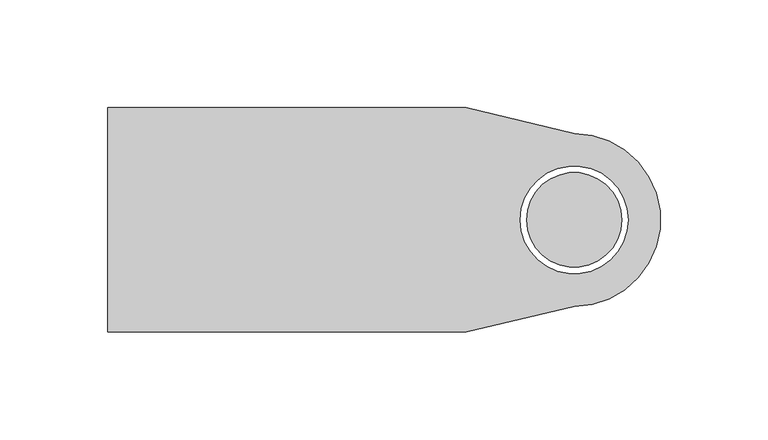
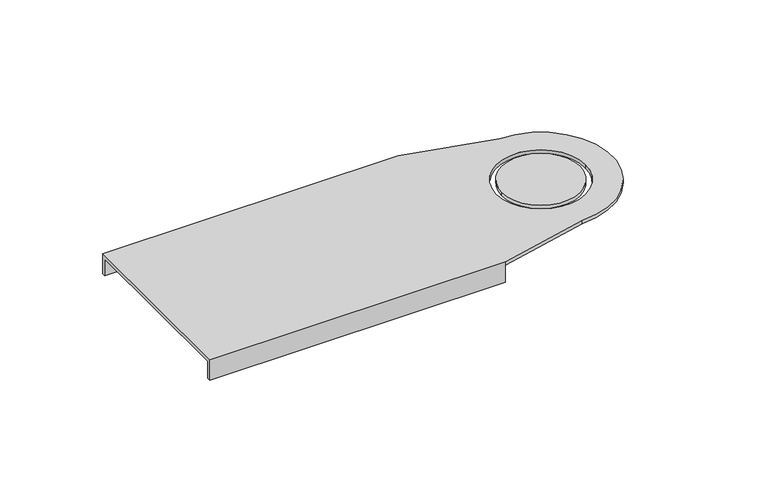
"""IFC4 building model written with IfcOpenShell, lengths in millimetres: cable carrier fitting geometry, BAKS_LDLS_BEND_Articulated connector for LLDS_LGSU : LGSUC_H100."""

from ifc_helpers import new_model, si_unit, frame, origin, place, context, project, spatial, polyline, circle_curve, source, transform, mapped, element, save
from ifc_brep_helpers import plane_surface, cylinder_surface, revolved_surface, advanced_brep


def cable_carrier_fitting_9a2a8d5e(model_context):
    return source(origin(), model_context, "Body", "AdvancedBrep", [
        advanced_brep(
        [(-216.0, 52.0, 2.0), (-216.0, -52.0, 2.0), (-50.0, -52.0, 2.0), (0.0, -40.0, 2.0), (0.0, 40.0, 2.0), (-50.0, 52.0, 2.0), (25.0, 0.0, 2.0), (-25.0, 0.0, 2.0), (-50.0, -52.0, 0.0), (-50.0, -50.0, 0.0), (-216.0, -50.0, 0.0), (-216.0, 50.0, 0.0), (-50.0, 50.0, 0.0), (-50.0, 52.0, 0.0), (0.0, 40.0, 0.0), (0.0, -40.0, 0.0), (-25.0, 0.0, 0.0), (25.0, 0.0, 0.0), (-50.0, 52.0, -10.0), (-216.0, 52.0, -10.0), (-216.0, -52.0, -10.0), (-50.0, -52.0, -10.0), (-216.0, 50.0, -10.0), (-216.0, -50.0, -10.0), (-50.0, -50.0, -10.0), (-50.0, 50.0, -10.0)],
        [
            (0, 1),
            (1, 2),
            (2, 3),
            (3, 4, circle_curve(frame((0.0, 0.0, 2.0), z_axis=(0.0, 0.0, 1.0), x_axis=(-1.0, 0.0, 0.0)), 40.0)),
            (4, 5),
            (5, 0),
            (6, 7, circle_curve(frame((0.0, 0.0, 2.0), z_axis=(0.0, 0.0, -1.0), x_axis=(-1.0, 0.0, 0.0)), 25.0)),
            (7, 6, circle_curve(frame((0.0, 0.0, 2.0), z_axis=(0.0, 0.0, -1.0), x_axis=(-1.0, 0.0, 0.0)), 25.0)),
            (8, 9),
            (9, 10),
            (10, 11),
            (11, 12),
            (12, 13),
            (13, 14),
            (14, 15, circle_curve(frame((0.0, 0.0, 0.0), z_axis=(0.0, 0.0, -1.0), x_axis=(-1.0, 0.0, 0.0)), 40.0)),
            (15, 8),
            (16, 17, circle_curve(frame((0.0, 0.0, 0.0), z_axis=(0.0, 0.0, 1.0), x_axis=(-1.0, 0.0, 0.0)), 25.0)),
            (17, 16, circle_curve(frame((0.0, 0.0, 0.0), z_axis=(0.0, 0.0, 1.0), x_axis=(-1.0, 0.0, 0.0)), 25.0)),
            (5, 13),
            (13, 18),
            (18, 19),
            (19, 0),
            (1, 20),
            (20, 21),
            (21, 8),
            (8, 2),
            (19, 22),
            (22, 11),
            (10, 23),
            (23, 20),
            (7, 16),
            (17, 6),
            (4, 14),
            (3, 15),
            (23, 24),
            (24, 21),
            (9, 24),
            (18, 25),
            (25, 22),
            (12, 25),
        ],
        [
            plane_surface(frame((-50.0, 52.0, 2.0), z_axis=(0.0, 0.0, 1.0), x_axis=(1.0, 0.0, 0.0))),
            plane_surface(frame((-50.0, 52.0, 0.0), z_axis=(0.0, 0.0, -1.0), x_axis=(-1.0, 0.0, 0.0))),
            plane_surface(frame((-216.0, 52.0, 2.0), z_axis=(0.0, 1.0, 0.0), x_axis=(0.0, 0.0, -1.0))),
            plane_surface(frame((-50.0, -52.0, 2.0), z_axis=(0.0, -1.0, 0.0), x_axis=(0.0, 0.0, -1.0))),
            plane_surface(frame((-216.0, -52.0, 2.0), z_axis=(-1.0, 0.0, 0.0), x_axis=(0.0, 0.0, -1.0))),
            revolved_surface(polyline([(-25.0, 0.0, 2.0), (-25.0, 0.0, 0.0)]), (0.0, 0.0, 0.0), (0.0, 0.0, 1.0)),
            plane_surface(frame((-50.0, 52.0, 2.0), z_axis=(0.23337295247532, 0.9723873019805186, 0.0), x_axis=(0.0, 0.0, -1.0))),
            cylinder_surface(frame((0.0, 0.0, 0.0), z_axis=(0.0, 0.0, 1.0), x_axis=(-1.0, 0.0, 0.0)), 40.0),
            plane_surface(frame((0.0, -40.0, 2.0), z_axis=(0.2333729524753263, -0.972387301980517, 0.0), x_axis=(0.0, 0.0, -1.0))),
            plane_surface(frame((-50.0, -50.0, -10.0), z_axis=(0.0, 0.0, -1.0), x_axis=(-1.0, 0.0, 0.0))),
            plane_surface(frame((-216.0, -50.0, 0.0), z_axis=(0.0, 1.0, 0.0), x_axis=(0.0, 0.0, -1.0))),
            plane_surface(frame((-50.0, -50.0, 0.0), z_axis=(1.0, 0.0, 0.0), x_axis=(0.0, 0.0, -1.0))),
            plane_surface(frame((-50.0, 52.0, -10.0), z_axis=(0.0, 0.0, -1.0), x_axis=(-1.0, 0.0, 0.0))),
            plane_surface(frame((-50.0, 52.0, 0.0), z_axis=(1.0, 0.0, 0.0), x_axis=(0.0, 0.0, -1.0))),
            plane_surface(frame((-50.0, 50.0, 0.0), z_axis=(0.0, -1.0, 0.0), x_axis=(0.0, 0.0, -1.0))),
        ],
        [
            (0, [[1, 2, 3, 4, 5, 6], [7, 8]]),
            (1, [[9, 10, 11, 12, 13, 14, 15, 16], [17, 18]]),
            (2, [[19, 20, 21, 22, -6]]),
            (3, [[23, 24, 25, 26, -2]]),
            (4, [[27, 28, -11, 29, 30, -23, -1, -22]]),
            (5, [[-8, 31, -18, 32]]),
            (5, [[-17, -31, -7, -32]]),
            (6, [[33, -14, -19, -5]]),
            (7, [[34, -15, -33, -4]]),
            (8, [[-26, -16, -34, -3]]),
            (9, [[35, 36, -24, -30]]),
            (10, [[-29, -10, 37, -35]]),
            (11, [[-37, -9, -25, -36]]),
            (12, [[-21, 38, 39, -27]]),
            (13, [[-20, -13, 40, -38]]),
            (14, [[-40, -12, -28, -39]]),
        ],
    ),
        advanced_brep(
        [(22.0, 0.0, 2.0), (-22.0, 0.0, 2.0), (-22.0, 0.0, 0.0), (22.0, 0.0, 0.0)],
        [
            (0, 1, circle_curve(frame((0.0, 0.0, 2.0), z_axis=(0.0, 0.0, 1.0), x_axis=(-1.0, 0.0, 0.0)), 22.0)),
            (1, 0, circle_curve(frame((0.0, 0.0, 2.0), z_axis=(0.0, 0.0, 1.0), x_axis=(-1.0, 0.0, 0.0)), 22.0)),
            (2, 3, circle_curve(frame((0.0, 0.0, 0.0), z_axis=(0.0, 0.0, -1.0), x_axis=(-1.0, 0.0, 0.0)), 22.0)),
            (3, 2, circle_curve(frame((0.0, 0.0, 0.0), z_axis=(0.0, 0.0, -1.0), x_axis=(-1.0, 0.0, 0.0)), 22.0)),
            (1, 2),
            (3, 0),
        ],
        [
            plane_surface(frame((-50.0, 52.0, 2.0), z_axis=(0.0, 0.0, 1.0), x_axis=(1.0, 0.0, 0.0))),
            plane_surface(frame((-50.0, 52.0, 0.0), z_axis=(0.0, 0.0, -1.0), x_axis=(-1.0, 0.0, 0.0))),
            cylinder_surface(frame((0.0, 0.0, 0.0), z_axis=(0.0, 0.0, -1.0), x_axis=(-1.0, 0.0, 0.0)), 22.0),
        ],
        [
            (0, [[1, 2]]),
            (1, [[3, 4]]),
            (2, [[-2, 5, -4, 6]]),
            (2, [[-3, -5, -1, -6]]),
        ],
    ),
    ])


if __name__ == "__main__":
    model = new_model("IFC4")
    model_context = context("Model", 3, world=origin())
    ifc_project = project(units=[si_unit("LENGTHUNIT", "METRE", prefix="MILLI")], contexts=[model_context])
    site = spatial("IfcSite", under=ifc_project)
    building = spatial("IfcBuilding", under=site)
    placement = place(None, origin())
    cable_carrier_fitting_shape = cable_carrier_fitting_9a2a8d5e(model_context)
    element("IfcCableCarrierFitting", 1, ObjectType="BAKS_LDLS_BEND_Articulated connector for LLDS_LGSU : LGSUC_H100", at=placement, inside=building, context=model_context, shape_type="MappedRepresentation", body=[
        mapped(cable_carrier_fitting_shape, transform((0.0, 0.0, 0.0), x_axis=(1.0, 0.0, 0.0), y_axis=(0.0, 1.0, 0.0), z_axis=(0.0, 0.0, 1.0))),
    ])
    save(model, "model.ifc")
